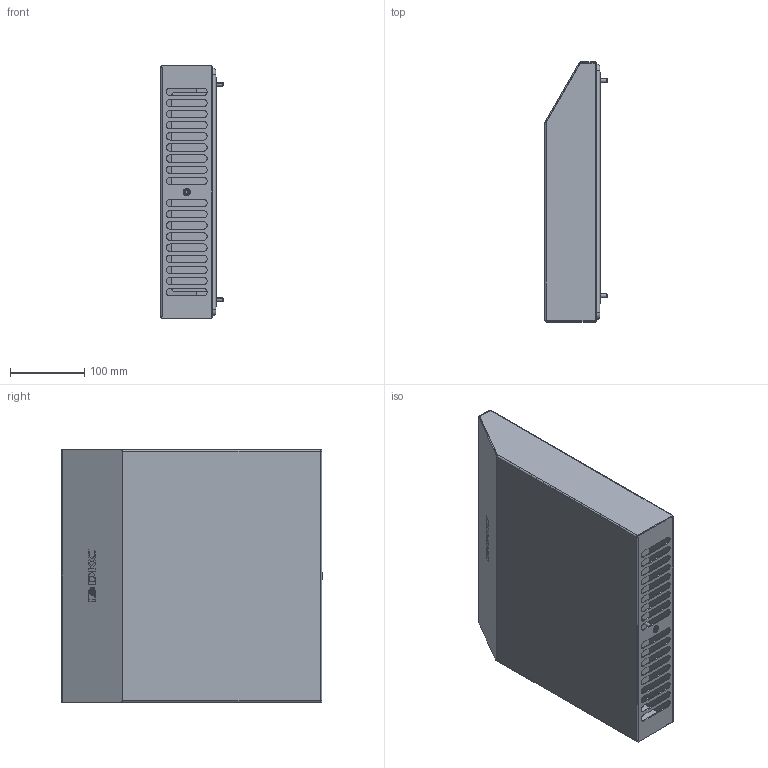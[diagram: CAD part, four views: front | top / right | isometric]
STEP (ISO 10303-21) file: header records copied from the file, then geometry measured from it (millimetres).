
FILE_DESCRIPTION (( 'STEP AP214' ), '1' );
FILE_NAME ('R5RK15B.STEP', '2021-03-12T13:12:00', ( '' ), ( '' ), 'SwSTEP 2.0', 'SolidWorks 2020', '' );
FILE_SCHEMA (( 'AUTOMOTIVE_DESIGN' ));
Length unit declared in the file: millimetre
Products named in the file (8): RB.1673.00.01.0_-03; M6 art.MGR-MKO-0625; PF 5x10 Cover R5RK_R5KF15; RB.1673.00.00.0 捘_-08; RB.1674.00.00.0_-03; M5x12-DIN 7500M ISR_stright; M6x50 DIN 914 HX cl.4,8 Zinc_straight; R5RK15B
Assembly tree (10 placements, depth 3):
  R5RK15B
    RB.1673.00.00.0 捘_-08
      RB.1673.00.01.0_-03
      M6 art.MGR-MKO-0625
      PF 5x10 Cover R5RK_R5KF15
    RB.1674.00.00.0_-03
    M5x12-DIN 7500M ISR_stright  x4
    M6x50 DIN 914 HX cl.4,8 Zinc_straight
Bounding box: 84 x 350.5 x 340 mm (x, y, z)
Volume: 411557 mm3; surface area: 541787.4 mm2
Topology: 9 solids, 9 shells, 492 faces, 1222 edges, 760 vertices
Faces by surface type: plane 249, cylinder 135, bspline 64, cone 32, torus 12
Entity records: 14506 total; most frequent: CARTESIAN_POINT 3604, ORIENTED_EDGE 2236, DIRECTION 2046, EDGE_CURVE 1118, LINE 748, VECTOR 748, VERTEX_POINT 703, AXIS2_PLACEMENT_3D 649
